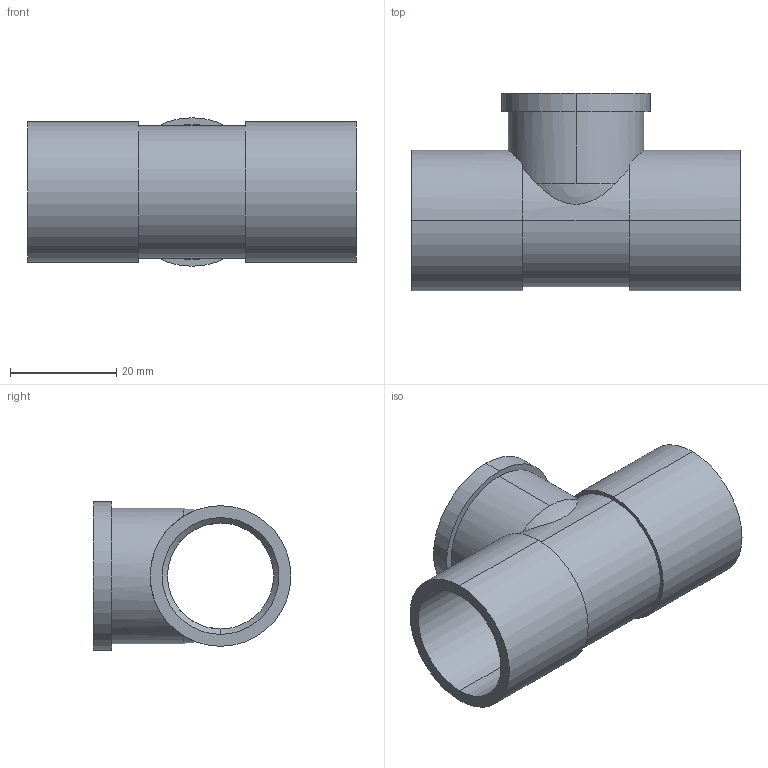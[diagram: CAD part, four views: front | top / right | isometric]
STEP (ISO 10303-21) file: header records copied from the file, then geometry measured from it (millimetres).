
FILE_DESCRIPTION (( 'STEP AP203' ), '1' );
FILE_NAME ('22x12.STEP', '2023-12-16T01:07:45', ( '' ), ( '' ), 'SwSTEP 2.0', 'SolidWorks 2018', '' );
FILE_SCHEMA (( 'CONFIG_CONTROL_DESIGN' ));
Length unit declared in the file: millimetre
Products named in the file (1): 22x12
Bounding box: 62 x 37.25 x 28 mm (x, y, z)
Volume: 13575.4 mm3; surface area: 12104 mm2
Topology: 1 solids, 1 shells, 57 faces, 155 edges, 98 vertices
Faces by surface type: cylinder 37, plane 8, cone 6, sphere 4, bspline 2
Entity records: 3032 total; most frequent: CARTESIAN_POINT 1636, ORIENTED_EDGE 302, DIRECTION 258, EDGE_CURVE 151, AXIS2_PLACEMENT_3D 105, VERTEX_POINT 98, EDGE_LOOP 63, ADVANCED_FACE 57
